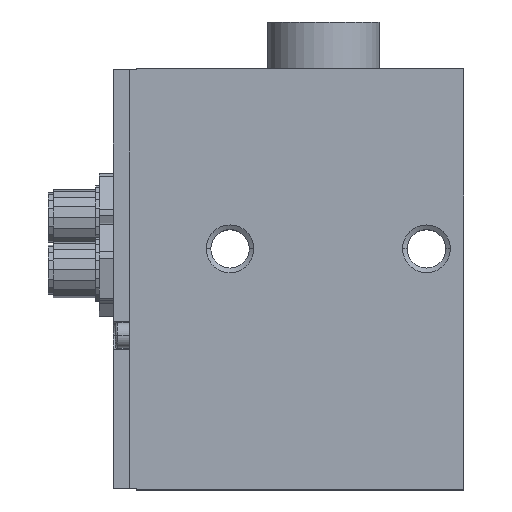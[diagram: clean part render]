
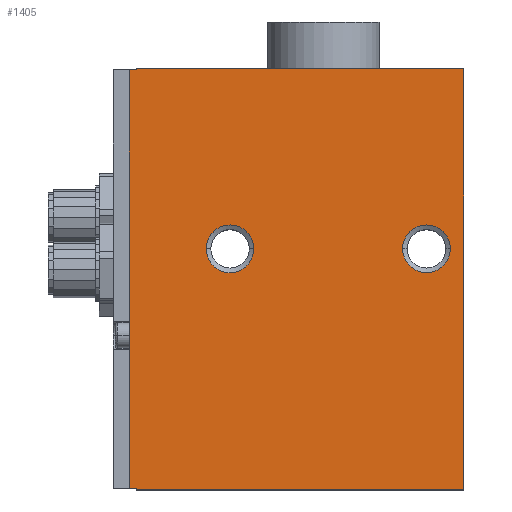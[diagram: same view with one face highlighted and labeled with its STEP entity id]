
A CAD part, top view. The second image highlights one B-rep face of the part: STEP entity #1405.
In plain terms, the highlighted planar face has unit normal (0, 0, 1).
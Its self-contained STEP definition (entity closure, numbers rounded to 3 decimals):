
#581 = LINE ( 'NONE', #8436, #5632 ) ;
#602 = VECTOR ( 'NONE', #10150, 1000. ) ;
#678 = LINE ( 'NONE', #16390, #23034 ) ;
#1017 = CIRCLE ( 'NONE', #14164, 5.1 ) ;
#1081 = AXIS2_PLACEMENT_3D ( 'NONE', #7790, #11886, #21906 ) ;
#1198 = DIRECTION ( 'NONE',  ( 1., 0., 0. ) ) ;
#1227 = EDGE_CURVE ( 'NONE', #24513, #23776, #3242, .T. ) ;
#1305 = DIRECTION ( 'NONE',  ( -1., 0., 0. ) ) ;
#1405 = ADVANCED_FACE ( 'NONE', ( #4116, #4499, #2178 ), #23899, .F. ) ;
#2178 = FACE_BOUND ( 'NONE', #22324, .T. ) ;
#2262 = ORIENTED_EDGE ( 'NONE', *, *, #20207, .T. ) ;
#3242 = LINE ( 'NONE', #8765, #20100 ) ;
#3530 = ORIENTED_EDGE ( 'NONE', *, *, #7179, .F. ) ;
#3545 = EDGE_CURVE ( 'NONE', #7032, #13913, #1017, .T. ) ;
#3978 = CIRCLE ( 'NONE', #1081, 5.1 ) ;
#4116 = FACE_OUTER_BOUND ( 'NONE', #9705, .T. ) ;
#4135 = CARTESIAN_POINT ( 'NONE',  ( 0., 0., 40. ) ) ;
#4389 = LINE ( 'NONE', #4135, #22848 ) ;
#4499 = FACE_BOUND ( 'NONE', #21482, .T. ) ;
#4731 = CARTESIAN_POINT ( 'NONE',  ( 56.9, 51.5, 40. ) ) ;
#4899 = ORIENTED_EDGE ( 'NONE', *, *, #8654, .F. ) ;
#5632 = VECTOR ( 'NONE', #14087, 1000. ) ;
#5669 = EDGE_CURVE ( 'NONE', #18703, #15777, #678, .T. ) ;
#5731 = AXIS2_PLACEMENT_3D ( 'NONE', #11949, #21729, #6297 ) ;
#5847 = CARTESIAN_POINT ( 'NONE',  ( 25.1, 51.5, 40. ) ) ;
#6031 = VECTOR ( 'NONE', #6285, 1000. ) ;
#6097 = AXIS2_PLACEMENT_3D ( 'NONE', #10836, #21007, #1198 ) ;
#6285 = DIRECTION ( 'NONE',  ( -1., 0., 0. ) ) ;
#6297 = DIRECTION ( 'NONE',  ( -1., 0., 0. ) ) ;
#7017 = CARTESIAN_POINT ( 'NONE',  ( 70., 0., 40. ) ) ;
#7032 = VERTEX_POINT ( 'NONE', #8976 ) ;
#7179 = EDGE_CURVE ( 'NONE', #17616, #24977, #16363, .T. ) ;
#7204 = CARTESIAN_POINT ( 'NONE',  ( -1.526, 0.25, 40. ) ) ;
#7288 = ORIENTED_EDGE ( 'NONE', *, *, #14226, .T. ) ;
#7713 = CARTESIAN_POINT ( 'NONE',  ( -1.526, 89.75, 40. ) ) ;
#7722 = LINE ( 'NONE', #15694, #6031 ) ;
#7790 = CARTESIAN_POINT ( 'NONE',  ( 20., 51.5, 40. ) ) ;
#8113 = DIRECTION ( 'NONE',  ( 0., 0., 1. ) ) ;
#8436 = CARTESIAN_POINT ( 'NONE',  ( 70., 90., 40. ) ) ;
#8580 = ORIENTED_EDGE ( 'NONE', *, *, #20855, .T. ) ;
#8654 = EDGE_CURVE ( 'NONE', #24977, #17616, #22839, .T. ) ;
#8765 = CARTESIAN_POINT ( 'NONE',  ( 0., 90., 40. ) ) ;
#8937 = VERTEX_POINT ( 'NONE', #7713 ) ;
#8976 = CARTESIAN_POINT ( 'NONE',  ( 14.9, 51.5, 40. ) ) ;
#9487 = ORIENTED_EDGE ( 'NONE', *, *, #14717, .F. ) ;
#9705 = EDGE_LOOP ( 'NONE', ( #17724, #9487, #23017, #2262, #7288, #8580, #21229, #18222 ) ) ;
#10150 = DIRECTION ( 'NONE',  ( 0., -1., 0. ) ) ;
#10272 = EDGE_CURVE ( 'NONE', #13913, #7032, #3978, .T. ) ;
#10827 = EDGE_CURVE ( 'NONE', #15777, #20209, #4389, .T. ) ;
#10836 = CARTESIAN_POINT ( 'NONE',  ( 62., 51.5, 40. ) ) ;
#10851 = CARTESIAN_POINT ( 'NONE',  ( 0., 89.75, 40. ) ) ;
#11056 = CARTESIAN_POINT ( 'NONE',  ( 0., 0.25, 40. ) ) ;
#11655 = VECTOR ( 'NONE', #18860, 1000. ) ;
#11754 = AXIS2_PLACEMENT_3D ( 'NONE', #19441, #8113, #15832 ) ;
#11886 = DIRECTION ( 'NONE',  ( 0., 0., 1. ) ) ;
#11949 = CARTESIAN_POINT ( 'NONE',  ( 0., 90., 40. ) ) ;
#12792 = LINE ( 'NONE', #18349, #11655 ) ;
#13771 = CARTESIAN_POINT ( 'NONE',  ( 20., 51.5, 40. ) ) ;
#13878 = LINE ( 'NONE', #17882, #602 ) ;
#13895 = DIRECTION ( 'NONE',  ( 1., 0., 0. ) ) ;
#13913 = VERTEX_POINT ( 'NONE', #5847 ) ;
#14087 = DIRECTION ( 'NONE',  ( 0., -1., 0. ) ) ;
#14164 = AXIS2_PLACEMENT_3D ( 'NONE', #13771, #17653, #13895 ) ;
#14226 = EDGE_CURVE ( 'NONE', #24452, #8937, #7722, .T. ) ;
#14717 = EDGE_CURVE ( 'NONE', #24513, #20209, #581, .T. ) ;
#15008 = CARTESIAN_POINT ( 'NONE',  ( -1.526, 0.25, 40. ) ) ;
#15694 = CARTESIAN_POINT ( 'NONE',  ( 0., 89.75, 40. ) ) ;
#15777 = VERTEX_POINT ( 'NONE', #17942 ) ;
#15832 = DIRECTION ( 'NONE',  ( 1., 0., 0. ) ) ;
#16086 = CARTESIAN_POINT ( 'NONE',  ( 67.1, 51.5, 40. ) ) ;
#16363 = CIRCLE ( 'NONE', #6097, 5.1 ) ;
#16390 = CARTESIAN_POINT ( 'NONE',  ( 0., 0., 40. ) ) ;
#17497 = DIRECTION ( 'NONE',  ( 1., 0., 0. ) ) ;
#17616 = VERTEX_POINT ( 'NONE', #16086 ) ;
#17653 = DIRECTION ( 'NONE',  ( 0., 0., 1. ) ) ;
#17724 = ORIENTED_EDGE ( 'NONE', *, *, #10827, .T. ) ;
#17882 = CARTESIAN_POINT ( 'NONE',  ( -1.526, 89.75, 40. ) ) ;
#17942 = CARTESIAN_POINT ( 'NONE',  ( 0., 0., 40. ) ) ;
#18222 = ORIENTED_EDGE ( 'NONE', *, *, #5669, .T. ) ;
#18273 = LINE ( 'NONE', #7204, #18904 ) ;
#18349 = CARTESIAN_POINT ( 'NONE',  ( 0., 0., 40. ) ) ;
#18477 = ORIENTED_EDGE ( 'NONE', *, *, #3545, .F. ) ;
#18703 = VERTEX_POINT ( 'NONE', #11056 ) ;
#18860 = DIRECTION ( 'NONE',  ( 0., -1., 0. ) ) ;
#18904 = VECTOR ( 'NONE', #17497, 1000. ) ;
#19441 = CARTESIAN_POINT ( 'NONE',  ( 62., 51.5, 40. ) ) ;
#19954 = DIRECTION ( 'NONE',  ( 1., 0., 0. ) ) ;
#20100 = VECTOR ( 'NONE', #1305, 1000. ) ;
#20207 = EDGE_CURVE ( 'NONE', #23776, #24452, #12792, .T. ) ;
#20209 = VERTEX_POINT ( 'NONE', #7017 ) ;
#20855 = EDGE_CURVE ( 'NONE', #8937, #24125, #13878, .T. ) ;
#21007 = DIRECTION ( 'NONE',  ( 0., 0., 1. ) ) ;
#21159 = ORIENTED_EDGE ( 'NONE', *, *, #10272, .F. ) ;
#21229 = ORIENTED_EDGE ( 'NONE', *, *, #23817, .T. ) ;
#21482 = EDGE_LOOP ( 'NONE', ( #21159, #18477 ) ) ;
#21729 = DIRECTION ( 'NONE',  ( 0., 0., -1. ) ) ;
#21906 = DIRECTION ( 'NONE',  ( 1., 0., 0. ) ) ;
#22272 = DIRECTION ( 'NONE',  ( 0., -1., 0. ) ) ;
#22324 = EDGE_LOOP ( 'NONE', ( #3530, #4899 ) ) ;
#22839 = CIRCLE ( 'NONE', #11754, 5.1 ) ;
#22848 = VECTOR ( 'NONE', #19954, 1000. ) ;
#23017 = ORIENTED_EDGE ( 'NONE', *, *, #1227, .T. ) ;
#23034 = VECTOR ( 'NONE', #22272, 1000. ) ;
#23321 = CARTESIAN_POINT ( 'NONE',  ( 70., 90., 40. ) ) ;
#23776 = VERTEX_POINT ( 'NONE', #24163 ) ;
#23817 = EDGE_CURVE ( 'NONE', #24125, #18703, #18273, .T. ) ;
#23899 = PLANE ( 'NONE',  #5731 ) ;
#24125 = VERTEX_POINT ( 'NONE', #15008 ) ;
#24163 = CARTESIAN_POINT ( 'NONE',  ( 0., 90., 40. ) ) ;
#24452 = VERTEX_POINT ( 'NONE', #10851 ) ;
#24513 = VERTEX_POINT ( 'NONE', #23321 ) ;
#24977 = VERTEX_POINT ( 'NONE', #4731 ) ;
